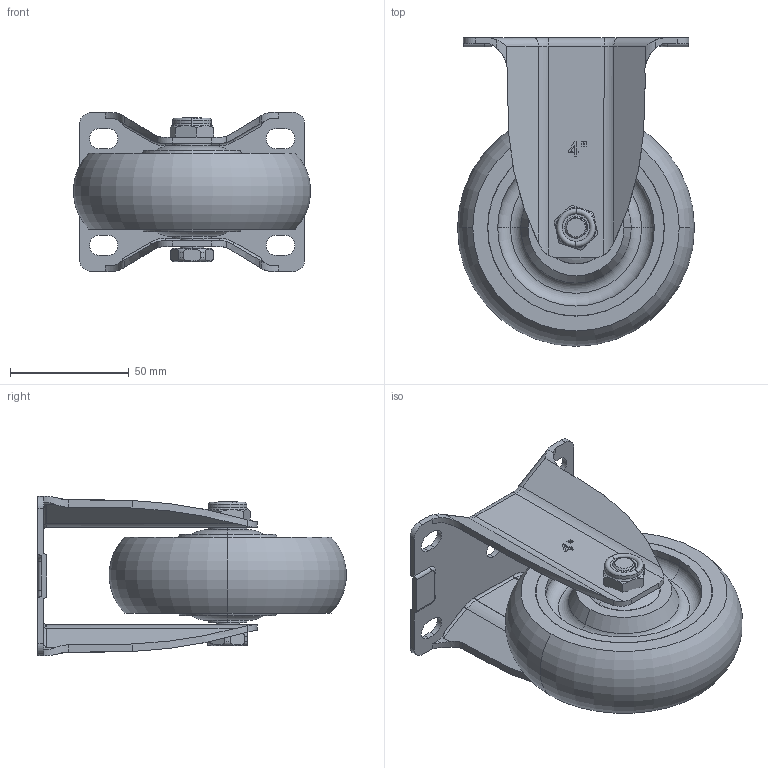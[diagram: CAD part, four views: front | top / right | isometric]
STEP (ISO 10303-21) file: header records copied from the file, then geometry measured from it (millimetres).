
FILE_DESCRIPTION (( 'STEP AP203' ), '1' );
FILE_NAME ('4寸定向.STEP', '2024-03-19T03:38:28', ( '微软用户' ), ( '微软中国' ), 'SwSTEP 2.0', 'SolidWorks 2008', '' );
FILE_SCHEMA (( 'CONFIG_CONTROL_DESIGN' ));
Length unit declared in the file: millimetre
Products named in the file (5): 100×32轮子_默认; 4渡隅砃; M10-55蹟裝; 2023-3-18  4寸固定支架_默认; M10蹟譫
Assembly tree (4 placements, depth 2):
  4渡隅砃
    2023-3-18  4寸固定支架_默认
    M10-55蹟裝
    100×32轮子_默认
    M10蹟譫
Bounding box: 99.83 x 129.95 x 67 mm (x, y, z)
Volume: 249975.2 mm3; surface area: 70254.2 mm2
Topology: 4 solids, 4 shells, 532 faces, 1404 edges, 919 vertices
Faces by surface type: plane 228, cylinder 153, bspline 89, torus 44, cone 18
Entity records: 23662 total; most frequent: CARTESIAN_POINT 10715, ORIENTED_EDGE 2804, DIRECTION 2250, EDGE_CURVE 1402, VERTEX_POINT 919, VECTOR 752, LINE 752, AXIS2_PLACEMENT_3D 749
